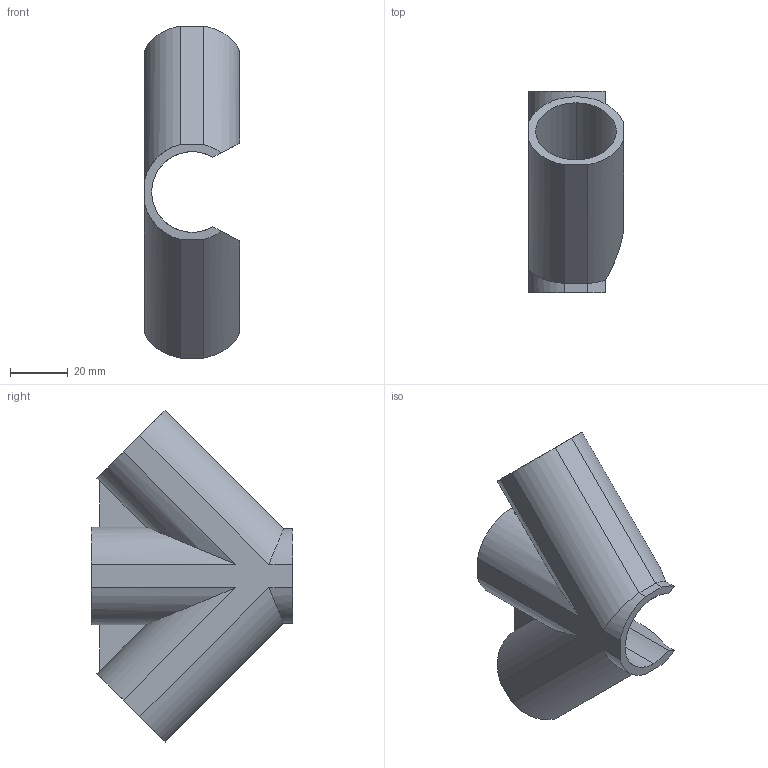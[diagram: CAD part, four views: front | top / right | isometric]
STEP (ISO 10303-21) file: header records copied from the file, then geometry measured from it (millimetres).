
FILE_DESCRIPTION (( 'STEP AP214' ), '1' );
FILE_NAME ('PJ-404.STEP', '2023-09-12T11:11:01', ( 'catia' ), ( 'HP Inc.' ), 'SwSTEP 2.0', 'SolidWorks 2021', '' );
FILE_SCHEMA (( 'AUTOMOTIVE_DESIGN' ));
Length unit declared in the file: millimetre
Products named in the file (1): PJ-404
Bounding box: 33 x 70.04 x 115.26 mm (x, y, z)
Volume: 56163.4 mm3; surface area: 25347.2 mm2
Topology: 1 solids, 1 shells, 45 faces, 118 edges, 77 vertices
Faces by surface type: cylinder 24, plane 21
Entity records: 1425 total; most frequent: CARTESIAN_POINT 311, ORIENTED_EDGE 236, DIRECTION 219, EDGE_CURVE 118, AXIS2_PLACEMENT_3D 77, VERTEX_POINT 77, LINE 65, VECTOR 65
